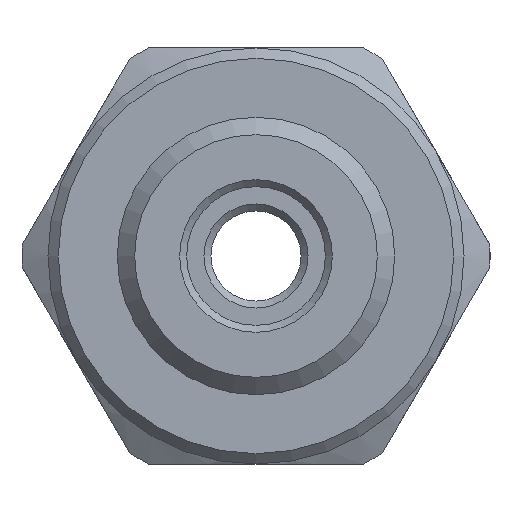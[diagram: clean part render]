
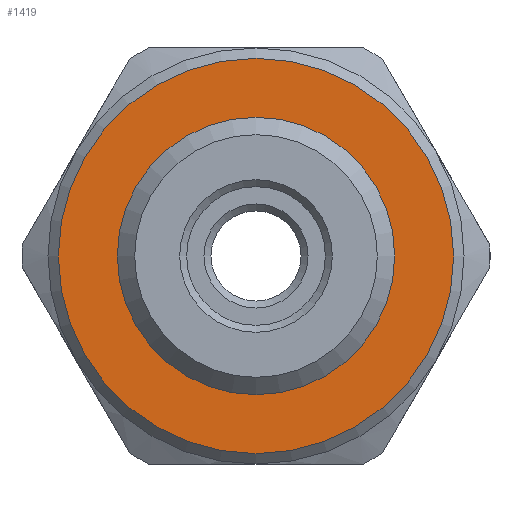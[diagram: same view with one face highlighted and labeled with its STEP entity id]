
A CAD part, left-side view. The second image highlights one B-rep face of the part: STEP entity #1419.
In plain terms, the highlighted planar face has unit normal (-1, 0, 0).
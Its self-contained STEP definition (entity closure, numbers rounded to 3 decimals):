
#1419=ADVANCED_FACE('',(#3924,#3925),#3926,.F.);
#1551=EDGE_CURVE('',#4113,#4113,#4114,.T.);
#1573=EDGE_CURVE('',#4144,#4144,#4145,.T.);
#3924=FACE_BOUND('',#7358,.T.);
#3925=FACE_OUTER_BOUND('',#7359,.T.);
#3926=PLANE('',#7360);
#4113=VERTEX_POINT('',#7787);
#4114=CIRCLE('',#7788,4.0);
#4144=VERTEX_POINT('',#7829);
#4145=CIRCLE('',#7830,5.7);
#7358=EDGE_LOOP('',(#14395));
#7359=EDGE_LOOP('',(#14396));
#7360=AXIS2_PLACEMENT_3D('',#14397,#14398,#14399);
#7787=CARTESIAN_POINT('',(-4.0,4.0,0.0));
#7788=AXIS2_PLACEMENT_3D('',#14594,#14595,#14596);
#7829=CARTESIAN_POINT('',(-4.0,0.,-5.7));
#7830=AXIS2_PLACEMENT_3D('',#14627,#14628,#14629);
#14395=ORIENTED_EDGE('',*,*,#1551,.F.);
#14396=ORIENTED_EDGE('',*,*,#1573,.F.);
#14397=CARTESIAN_POINT('',(-4.0,6.0,0.0));
#14398=DIRECTION('',(1.0,0.0,0.0));
#14399=DIRECTION('',(0.0,1.0,0.0));
#14594=CARTESIAN_POINT('',(-4.0,0.0,0.0));
#14595=DIRECTION('',(-1.0,0.0,0.0));
#14596=DIRECTION('',(0.0,0.0,1.0));
#14627=CARTESIAN_POINT('',(-4.0,0.0,0.0));
#14628=DIRECTION('',(1.0,0.0,-0.0));
#14629=DIRECTION('',(0.0,0.,1.0));
